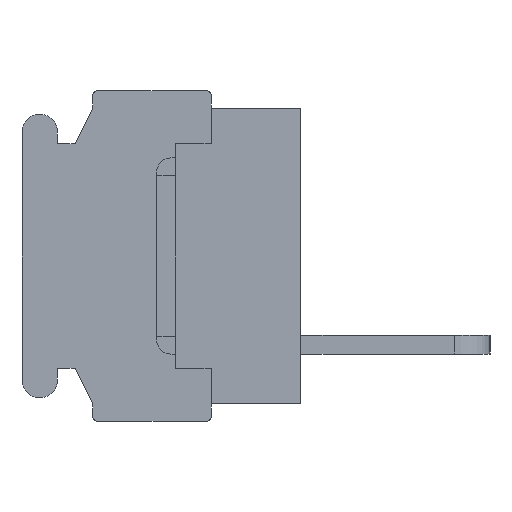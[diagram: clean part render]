
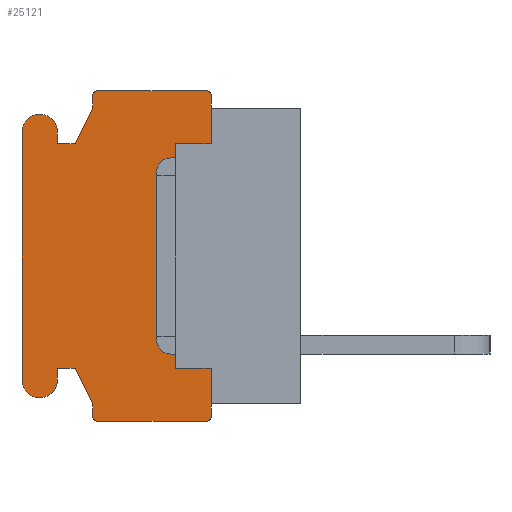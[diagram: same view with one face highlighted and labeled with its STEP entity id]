
A CAD part, left-side view. The second image highlights one B-rep face of the part: STEP entity #25121.
In plain terms, the highlighted planar face has unit normal (-1, 0, 0).
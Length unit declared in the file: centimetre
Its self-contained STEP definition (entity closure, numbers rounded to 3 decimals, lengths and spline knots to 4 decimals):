
#1448=PLANE('',#41291);
#2199=VECTOR('',#26515,1.);
#3812=VECTOR('',#30087,1.);
#3813=VECTOR('',#30088,1.);
#3814=VECTOR('',#30091,1.);
#3815=VECTOR('',#30094,1.);
#3816=VECTOR('',#30095,1.);
#3817=VECTOR('',#30096,1.);
#3818=VECTOR('',#30097,1.);
#3819=VECTOR('',#30100,1.);
#3820=VECTOR('',#30103,1.);
#3821=VECTOR('',#30104,1.);
#3822=VECTOR('',#30105,1.);
#3823=VECTOR('',#30106,1.);
#3824=VECTOR('',#30109,1.);
#3825=VECTOR('',#30112,1.);
#3826=VECTOR('',#30113,1.);
#3827=VECTOR('',#30114,1.);
#3828=VECTOR('',#30115,1.);
#4859=LINE('',#32898,#2199);
#6472=LINE('',#38101,#3812);
#6473=LINE('',#38103,#3813);
#6474=LINE('',#38107,#3814);
#6475=LINE('',#38111,#3815);
#6476=LINE('',#38113,#3816);
#6477=LINE('',#38115,#3817);
#6478=LINE('',#38117,#3818);
#6479=LINE('',#38121,#3819);
#6480=LINE('',#38125,#3820);
#6481=LINE('',#38127,#3821);
#6482=LINE('',#38129,#3822);
#6483=LINE('',#38131,#3823);
#6484=LINE('',#38135,#3824);
#6485=LINE('',#38139,#3825);
#6486=LINE('',#38140,#3826);
#6487=LINE('',#38142,#3827);
#6488=LINE('',#38143,#3828);
#7460=VERTEX_POINT('',#32899);
#7461=VERTEX_POINT('',#32900);
#7561=VERTEX_POINT('',#33177);
#7608=VERTEX_POINT('',#33276);
#8986=VERTEX_POINT('',#38102);
#8987=VERTEX_POINT('',#38104);
#8988=VERTEX_POINT('',#38106);
#8989=VERTEX_POINT('',#38108);
#8990=VERTEX_POINT('',#38110);
#8991=VERTEX_POINT('',#38112);
#8992=VERTEX_POINT('',#38114);
#8993=VERTEX_POINT('',#38116);
#8994=VERTEX_POINT('',#38118);
#8995=VERTEX_POINT('',#38120);
#8996=VERTEX_POINT('',#38122);
#8997=VERTEX_POINT('',#38124);
#8998=VERTEX_POINT('',#38126);
#8999=VERTEX_POINT('',#38128);
#9000=VERTEX_POINT('',#38130);
#9001=VERTEX_POINT('',#38132);
#9002=VERTEX_POINT('',#38134);
#9003=VERTEX_POINT('',#38136);
#9004=VERTEX_POINT('',#38138);
#9005=VERTEX_POINT('',#38141);
#9870=CIRCLE('',#41292,0.02);
#9871=CIRCLE('',#41293,0.02);
#9872=CIRCLE('',#41294,0.075);
#9873=CIRCLE('',#41295,0.075);
#9874=CIRCLE('',#41296,0.02);
#9875=CIRCLE('',#41297,0.02);
#10684=EDGE_CURVE('',#7460,#7461,#4859,.T.);
#12993=EDGE_CURVE('',#8986,#7561,#6472,.T.);
#12994=EDGE_CURVE('',#8987,#7561,#6473,.T.);
#12995=EDGE_CURVE('',#8988,#8987,#9870,.T.);
#12996=EDGE_CURVE('',#8989,#8988,#6474,.T.);
#12997=EDGE_CURVE('',#8990,#8989,#9871,.T.);
#12998=EDGE_CURVE('',#8991,#8990,#6475,.T.);
#12999=EDGE_CURVE('',#8992,#8991,#6476,.T.);
#13000=EDGE_CURVE('',#8993,#8992,#6477,.T.);
#13001=EDGE_CURVE('',#8994,#8993,#6478,.T.);
#13002=EDGE_CURVE('',#8995,#8994,#9872,.T.);
#13003=EDGE_CURVE('',#8996,#8995,#6479,.T.);
#13004=EDGE_CURVE('',#8997,#8996,#9873,.T.);
#13005=EDGE_CURVE('',#8998,#8997,#6480,.T.);
#13006=EDGE_CURVE('',#8999,#8998,#6481,.T.);
#13007=EDGE_CURVE('',#9000,#8999,#6482,.T.);
#13008=EDGE_CURVE('',#9001,#9000,#6483,.T.);
#13009=EDGE_CURVE('',#9002,#9001,#9874,.T.);
#13010=EDGE_CURVE('',#9003,#9002,#6484,.T.);
#13011=EDGE_CURVE('',#9004,#9003,#9875,.T.);
#13012=EDGE_CURVE('',#7608,#9004,#6485,.T.);
#13013=EDGE_CURVE('',#7608,#9005,#6486,.T.);
#13014=EDGE_CURVE('',#9005,#7460,#6487,.T.);
#13015=EDGE_CURVE('',#7461,#8986,#6488,.T.);
#19745=ORIENTED_EDGE('',*,*,#12993,.T.);
#19746=ORIENTED_EDGE('',*,*,#12994,.F.);
#19747=ORIENTED_EDGE('',*,*,#12995,.F.);
#19748=ORIENTED_EDGE('',*,*,#12996,.F.);
#19749=ORIENTED_EDGE('',*,*,#12997,.F.);
#19750=ORIENTED_EDGE('',*,*,#12998,.F.);
#19751=ORIENTED_EDGE('',*,*,#12999,.F.);
#19752=ORIENTED_EDGE('',*,*,#13000,.F.);
#19753=ORIENTED_EDGE('',*,*,#13001,.F.);
#19754=ORIENTED_EDGE('',*,*,#13002,.F.);
#19755=ORIENTED_EDGE('',*,*,#13003,.F.);
#19756=ORIENTED_EDGE('',*,*,#13004,.F.);
#19757=ORIENTED_EDGE('',*,*,#13005,.F.);
#19758=ORIENTED_EDGE('',*,*,#13006,.F.);
#19759=ORIENTED_EDGE('',*,*,#13007,.F.);
#19760=ORIENTED_EDGE('',*,*,#13008,.F.);
#19761=ORIENTED_EDGE('',*,*,#13009,.F.);
#19762=ORIENTED_EDGE('',*,*,#13010,.F.);
#19763=ORIENTED_EDGE('',*,*,#13011,.F.);
#19764=ORIENTED_EDGE('',*,*,#13012,.F.);
#19765=ORIENTED_EDGE('',*,*,#13013,.T.);
#19766=ORIENTED_EDGE('',*,*,#13014,.T.);
#19767=ORIENTED_EDGE('',*,*,#10684,.T.);
#19768=ORIENTED_EDGE('',*,*,#13015,.T.);
#22201=EDGE_LOOP('',(#19745,#19746,#19747,#19748,#19749,#19750,#19751,#19752,
#19753,#19754,#19755,#19756,#19757,#19758,#19759,#19760,#19761,#19762,#19763,
#19764,#19765,#19766,#19767,#19768));
#23731=FACE_BOUND('',#22201,.T.);
#25121=ADVANCED_FACE('',(#23731),#1448,.F.);
#26515=DIRECTION('',(0.,0.,1.));
#30086=DIRECTION('',(1.,0.,0.));
#30087=DIRECTION('',(0.,0.,1.));
#30088=DIRECTION('',(0.,0.,-1.));
#30089=DIRECTION('',(1.,0.,0.));
#30090=DIRECTION('',(0.,0.,-0.02));
#30091=DIRECTION('',(0.,-1.,0.));
#30092=DIRECTION('',(1.,0.,0.));
#30093=DIRECTION('',(0.,0.,-0.02));
#30094=DIRECTION('',(0.,0.,1.));
#30095=DIRECTION('',(0.,-0.447,0.894));
#30096=DIRECTION('',(0.,-1.,0.));
#30097=DIRECTION('',(0.,0.,-1.));
#30098=DIRECTION('',(1.,0.,0.));
#30099=DIRECTION('',(0.,0.,-0.075));
#30100=DIRECTION('',(0.,0.,1.));
#30101=DIRECTION('',(1.,0.,0.));
#30102=DIRECTION('',(0.,0.,-0.075));
#30103=DIRECTION('',(0.,0.,-1.));
#30104=DIRECTION('',(0.,1.,0.));
#30105=DIRECTION('',(0.,0.447,0.894));
#30106=DIRECTION('',(0.,0.,1.));
#30107=DIRECTION('',(1.,0.,0.));
#30108=DIRECTION('',(0.,0.,-0.02));
#30109=DIRECTION('',(0.,1.,0.));
#30110=DIRECTION('',(1.,0.,0.));
#30111=DIRECTION('',(0.,0.,-0.02));
#30112=DIRECTION('',(0.,0.,-1.));
#30113=DIRECTION('',(0.,0.,1.));
#30114=DIRECTION('',(0.,1.,0.));
#30115=DIRECTION('',(0.,-1.,0.));
#32898=CARTESIAN_POINT('',(-0.762,0.53,0.));
#32899=CARTESIAN_POINT('',(-0.762,0.53,-0.475));
#32900=CARTESIAN_POINT('',(-0.762,0.53,0.475));
#33177=CARTESIAN_POINT('',(-0.762,0.38,0.625));
#33276=CARTESIAN_POINT('',(-0.762,0.38,-0.625));
#38100=CARTESIAN_POINT('',(-0.762,0.6059,0.));
#38101=CARTESIAN_POINT('',(-0.762,0.38,0.275));
#38102=CARTESIAN_POINT('',(-0.762,0.38,0.475));
#38103=CARTESIAN_POINT('',(-0.762,0.38,0.68));
#38104=CARTESIAN_POINT('',(-0.762,0.38,0.68));
#38105=CARTESIAN_POINT('',(-0.762,0.4,0.68));
#38106=CARTESIAN_POINT('',(-0.762,0.4,0.7));
#38107=CARTESIAN_POINT('',(-0.762,0.86,0.7));
#38108=CARTESIAN_POINT('',(-0.762,0.86,0.7));
#38109=CARTESIAN_POINT('',(-0.762,0.86,0.68));
#38110=CARTESIAN_POINT('',(-0.762,0.88,0.68));
#38111=CARTESIAN_POINT('',(-0.762,0.88,0.625));
#38112=CARTESIAN_POINT('',(-0.762,0.88,0.625));
#38113=CARTESIAN_POINT('',(-0.762,0.955,0.475));
#38114=CARTESIAN_POINT('',(-0.762,0.955,0.475));
#38115=CARTESIAN_POINT('',(-0.762,1.03,0.475));
#38116=CARTESIAN_POINT('',(-0.762,1.03,0.475));
#38117=CARTESIAN_POINT('',(-0.762,1.03,0.525));
#38118=CARTESIAN_POINT('',(-0.762,1.03,0.525));
#38119=CARTESIAN_POINT('',(-0.762,1.105,0.525));
#38120=CARTESIAN_POINT('',(-0.762,1.18,0.525));
#38121=CARTESIAN_POINT('',(-0.762,1.18,-0.525));
#38122=CARTESIAN_POINT('',(-0.762,1.18,-0.525));
#38123=CARTESIAN_POINT('',(-0.762,1.105,-0.525));
#38124=CARTESIAN_POINT('',(-0.762,1.03,-0.525));
#38125=CARTESIAN_POINT('',(-0.762,1.03,-0.475));
#38126=CARTESIAN_POINT('',(-0.762,1.03,-0.475));
#38127=CARTESIAN_POINT('',(-0.762,0.955,-0.475));
#38128=CARTESIAN_POINT('',(-0.762,0.955,-0.475));
#38129=CARTESIAN_POINT('',(-0.762,0.88,-0.625));
#38130=CARTESIAN_POINT('',(-0.762,0.88,-0.625));
#38131=CARTESIAN_POINT('',(-0.762,0.88,-0.68));
#38132=CARTESIAN_POINT('',(-0.762,0.88,-0.68));
#38133=CARTESIAN_POINT('',(-0.762,0.86,-0.68));
#38134=CARTESIAN_POINT('',(-0.762,0.86,-0.7));
#38135=CARTESIAN_POINT('',(-0.762,0.4,-0.7));
#38136=CARTESIAN_POINT('',(-0.762,0.4,-0.7));
#38137=CARTESIAN_POINT('',(-0.762,0.4,-0.68));
#38138=CARTESIAN_POINT('',(-0.762,0.38,-0.68));
#38139=CARTESIAN_POINT('',(-0.762,0.38,-0.625));
#38140=CARTESIAN_POINT('',(-0.762,0.38,-0.275));
#38141=CARTESIAN_POINT('',(-0.762,0.38,-0.475));
#38142=CARTESIAN_POINT('',(-0.762,0.5304,-0.475));
#38143=CARTESIAN_POINT('',(-0.762,0.5304,0.475));
#41291=AXIS2_PLACEMENT_3D('',#38100,#30086,$);
#41292=AXIS2_PLACEMENT_3D('',#38105,#30089,#30090);
#41293=AXIS2_PLACEMENT_3D('',#38109,#30092,#30093);
#41294=AXIS2_PLACEMENT_3D('',#38119,#30098,#30099);
#41295=AXIS2_PLACEMENT_3D('',#38123,#30101,#30102);
#41296=AXIS2_PLACEMENT_3D('',#38133,#30107,#30108);
#41297=AXIS2_PLACEMENT_3D('',#38137,#30110,#30111);
